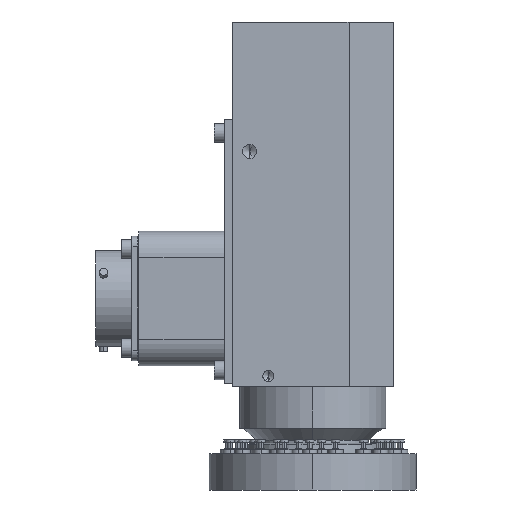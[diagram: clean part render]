
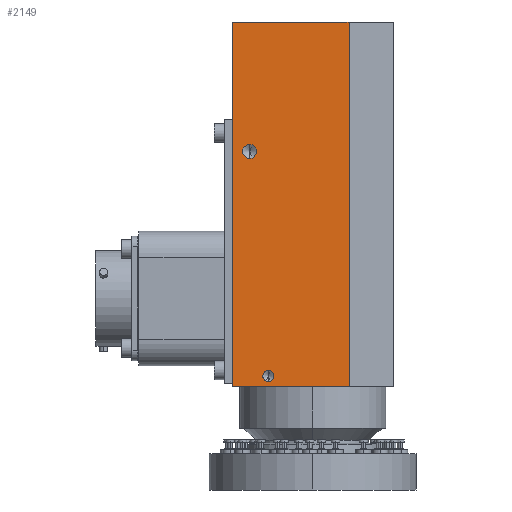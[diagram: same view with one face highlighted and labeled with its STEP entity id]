
A CAD part, left-side view. The second image highlights one B-rep face of the part: STEP entity #2149.
In plain terms, the highlighted planar face has unit normal (-1, 0, 0).
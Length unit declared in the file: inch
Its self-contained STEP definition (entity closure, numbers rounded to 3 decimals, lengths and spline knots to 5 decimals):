
#668 = EDGE_LOOP ( 'NONE', ( #20320, #3219 ) ) ;
#738 = AXIS2_PLACEMENT_3D ( 'NONE', #15668, #10479, #17341 ) ;
#741 = DIRECTION ( 'NONE',  ( 0., 0., 1. ) ) ;
#977 = CARTESIAN_POINT ( 'NONE',  ( -0.775, 0.43, -3.47325 ) ) ;
#1066 = LINE ( 'NONE', #15167, #16688 ) ;
#1287 = CIRCLE ( 'NONE', #10986, 0.05325 ) ;
#1425 = VERTEX_POINT ( 'NONE', #1585 ) ;
#1483 = DIRECTION ( 'NONE',  ( 0., -1., 0. ) ) ;
#1582 = ORIENTED_EDGE ( 'NONE', *, *, #18745, .F. ) ;
#1585 = CARTESIAN_POINT ( 'NONE',  ( -0.775, 0.775, -3.52 ) ) ;
#2149 = ADVANCED_FACE ( 'NONE', ( #5411, #7040, #2471 ), #14333, .T. ) ;
#2373 = DIRECTION ( 'NONE',  ( -1., 0., 0. ) ) ;
#2471 = FACE_OUTER_BOUND ( 'NONE', #4317, .T. ) ;
#2890 = VERTEX_POINT ( 'NONE', #9966 ) ;
#3219 = ORIENTED_EDGE ( 'NONE', *, *, #4973, .F. ) ;
#3945 = CARTESIAN_POINT ( 'NONE',  ( -0.775, -0.35, -3.52 ) ) ;
#3996 = DIRECTION ( 'NONE',  ( -1., 0., 0. ) ) ;
#4317 = EDGE_LOOP ( 'NONE', ( #5223, #1582, #13451, #21086 ) ) ;
#4667 = VERTEX_POINT ( 'NONE', #15602 ) ;
#4973 = EDGE_CURVE ( 'NONE', #4667, #10938, #5626, .T. ) ;
#5223 = ORIENTED_EDGE ( 'NONE', *, *, #12386, .T. ) ;
#5303 = VERTEX_POINT ( 'NONE', #18631 ) ;
#5411 = FACE_BOUND ( 'NONE', #668, .T. ) ;
#5626 = CIRCLE ( 'NONE', #13397, 0.068 ) ;
#6379 = ORIENTED_EDGE ( 'NONE', *, *, #21196, .F. ) ;
#7040 = FACE_BOUND ( 'NONE', #13866, .T. ) ;
#7182 = EDGE_CURVE ( 'NONE', #5303, #19698, #1287, .T. ) ;
#7438 = DIRECTION ( 'NONE',  ( 0., -1., 0. ) ) ;
#7763 = DIRECTION ( 'NONE',  ( 0., 0., 1. ) ) ;
#7900 = VECTOR ( 'NONE', #741, 39.37008 ) ;
#8247 = CARTESIAN_POINT ( 'NONE',  ( -0.775, 0.61, -1.25 ) ) ;
#8298 = CARTESIAN_POINT ( 'NONE',  ( -0.775, 0.43, -3.42 ) ) ;
#8868 = VERTEX_POINT ( 'NONE', #13133 ) ;
#9003 = DIRECTION ( 'NONE',  ( 0., 0., 1. ) ) ;
#9577 = ORIENTED_EDGE ( 'NONE', *, *, #7182, .F. ) ;
#9725 = EDGE_CURVE ( 'NONE', #1425, #15633, #15138, .T. ) ;
#9966 = CARTESIAN_POINT ( 'NONE',  ( -0.775, 0.775, 0. ) ) ;
#10239 = DIRECTION ( 'NONE',  ( 0., -1., 0. ) ) ;
#10479 = DIRECTION ( 'NONE',  ( -1., 0., 0. ) ) ;
#10938 = VERTEX_POINT ( 'NONE', #14196 ) ;
#10986 = AXIS2_PLACEMENT_3D ( 'NONE', #8298, #22142, #16990 ) ;
#11077 = CIRCLE ( 'NONE', #18587, 0.068 ) ;
#11630 = DIRECTION ( 'NONE',  ( 0., 0., 1. ) ) ;
#12386 = EDGE_CURVE ( 'NONE', #15633, #8868, #18107, .T. ) ;
#12696 = CARTESIAN_POINT ( 'NONE',  ( -0.775, 0.61, -1.25 ) ) ;
#12715 = EDGE_CURVE ( 'NONE', #10938, #4667, #11077, .T. ) ;
#13133 = CARTESIAN_POINT ( 'NONE',  ( -0.775, -0.35, 0. ) ) ;
#13397 = AXIS2_PLACEMENT_3D ( 'NONE', #8247, #17018, #9003 ) ;
#13451 = ORIENTED_EDGE ( 'NONE', *, *, #17441, .F. ) ;
#13866 = EDGE_LOOP ( 'NONE', ( #9577, #6379 ) ) ;
#14196 = CARTESIAN_POINT ( 'NONE',  ( -0.775, 0.61, -1.182 ) ) ;
#14333 = PLANE ( 'NONE',  #14654 ) ;
#14654 = AXIS2_PLACEMENT_3D ( 'NONE', #15813, #3996, #7438 ) ;
#15138 = LINE ( 'NONE', #20528, #18401 ) ;
#15167 = CARTESIAN_POINT ( 'NONE',  ( -0.775, 0.775, 0. ) ) ;
#15602 = CARTESIAN_POINT ( 'NONE',  ( -0.775, 0.61, -1.318 ) ) ;
#15633 = VERTEX_POINT ( 'NONE', #3945 ) ;
#15668 = CARTESIAN_POINT ( 'NONE',  ( -0.775, 0.43, -3.42 ) ) ;
#15813 = CARTESIAN_POINT ( 'NONE',  ( -0.775, 0.775, -3.52 ) ) ;
#16098 = CARTESIAN_POINT ( 'NONE',  ( -0.775, 0.775, -3.52 ) ) ;
#16312 = CIRCLE ( 'NONE', #738, 0.05325 ) ;
#16688 = VECTOR ( 'NONE', #1483, 39.37008 ) ;
#16990 = DIRECTION ( 'NONE',  ( 0., 0., 1. ) ) ;
#17018 = DIRECTION ( 'NONE',  ( -1., 0., 0. ) ) ;
#17033 = VECTOR ( 'NONE', #11630, 39.37008 ) ;
#17341 = DIRECTION ( 'NONE',  ( 0., 0., 1. ) ) ;
#17441 = EDGE_CURVE ( 'NONE', #1425, #2890, #22246, .T. ) ;
#18107 = LINE ( 'NONE', #22003, #17033 ) ;
#18401 = VECTOR ( 'NONE', #10239, 39.37008 ) ;
#18587 = AXIS2_PLACEMENT_3D ( 'NONE', #12696, #2373, #7763 ) ;
#18631 = CARTESIAN_POINT ( 'NONE',  ( -0.775, 0.43, -3.36675 ) ) ;
#18745 = EDGE_CURVE ( 'NONE', #2890, #8868, #1066, .T. ) ;
#19698 = VERTEX_POINT ( 'NONE', #977 ) ;
#20320 = ORIENTED_EDGE ( 'NONE', *, *, #12715, .F. ) ;
#20528 = CARTESIAN_POINT ( 'NONE',  ( -0.775, 0.775, -3.52 ) ) ;
#21086 = ORIENTED_EDGE ( 'NONE', *, *, #9725, .T. ) ;
#21196 = EDGE_CURVE ( 'NONE', #19698, #5303, #16312, .T. ) ;
#22003 = CARTESIAN_POINT ( 'NONE',  ( -0.775, -0.35, -3.52004 ) ) ;
#22142 = DIRECTION ( 'NONE',  ( -1., 0., 0. ) ) ;
#22246 = LINE ( 'NONE', #16098, #7900 ) ;
